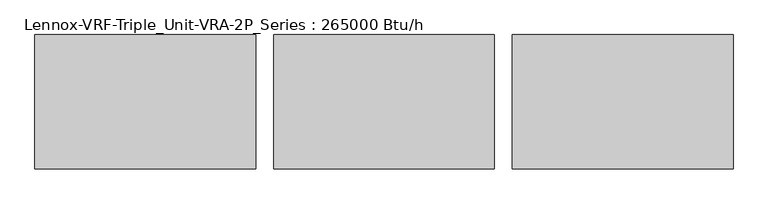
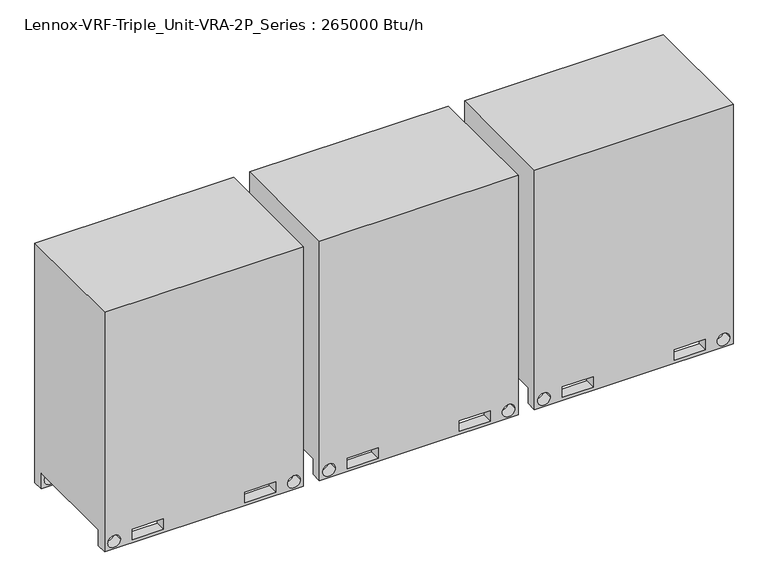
"""IFC4 building model written with IfcOpenShell, lengths in millimetres: proxy geometry, Lennox-VRF-Triple_Unit-VRA-2P_Series : 265000 Btu/h."""

from ifc_helpers import new_model, si_unit, frame, origin, place, context, project, spatial, polyline, circle_curve, source, transform, mapped, element, save
from ifc_brep_helpers import plane_surface, revolved_surface, advanced_brep


def lennox_vrf_triple_unit_vra_2p_series_265000_btu_h_b970921d(model_context):
    return source(origin(), model_context, "Body", "AdvancedBrep", [
        advanced_brep(
        [(628.5, -313.0, 105.0), (-629.5, -313.0, 105.0), (-629.5, 314.0, 105.0), (628.5, 314.0, 105.0), (628.5, -313.0, 0.0), (-629.5, -313.0, 0.0), (-257.5, -313.0, 90.0), (-454.5, -313.0, 90.0), (-454.5, -313.0, 20.0), (-257.5, -313.0, 20.0), (-609.5, -313.0, 50.0), (-529.5, -313.0, 50.0), (528.5, -313.0, 50.0), (608.5, -313.0, 50.0), (453.5, -313.0, 90.0), (256.5, -313.0, 90.0), (256.5, -313.0, 20.0), (453.5, -313.0, 20.0), (-629.5, 314.0, 0.0), (628.5, 314.0, 0.0), (-454.5, 314.0, 90.0), (-257.5, 314.0, 90.0), (-257.5, 314.0, 20.0), (-454.5, 314.0, 20.0), (-529.5, 314.0, 50.0), (-609.5, 314.0, 50.0), (608.5, 314.0, 50.0), (528.5, 314.0, 50.0), (256.5, 314.0, 90.0), (453.5, 314.0, 90.0), (453.5, 314.0, 20.0), (256.5, 314.0, 20.0), (628.5, 383.0, 1603.0), (-629.5, 383.0, 1603.0), (-629.5, -382.0, 1603.0), (628.5, -382.0, 1603.0), (628.5, -382.0, 0.0), (-629.5, -382.0, 0.0), (-629.5, 383.0, 0.0), (628.5, 383.0, 0.0), (-257.5, 383.0, 90.0), (-454.5, 383.0, 90.0), (-454.5, 383.0, 20.0), (-257.5, 383.0, 20.0), (-609.5, 383.0, 50.0), (-529.5, 383.0, 50.0), (528.5, 383.0, 50.0), (608.5, 383.0, 50.0), (453.5, 383.0, 90.0), (256.5, 383.0, 90.0), (256.5, 383.0, 20.0), (453.5, 383.0, 20.0), (-454.5, -382.0, 90.0), (-257.5, -382.0, 90.0), (-257.5, -382.0, 20.0), (-454.5, -382.0, 20.0), (-529.5, -382.0, 50.0), (-609.5, -382.0, 50.0), (608.5, -382.0, 50.0), (528.5, -382.0, 50.0), (256.5, -382.0, 90.0), (453.5, -382.0, 90.0), (453.5, -382.0, 20.0), (256.5, -382.0, 20.0)],
        [
            (0, 1),
            (1, 2),
            (2, 3),
            (3, 0),
            (0, 4),
            (4, 5),
            (5, 1),
            (6, 7),
            (7, 8),
            (8, 9),
            (9, 6),
            (10, 11, circle_curve(frame((-569.5, -313.0, 50.0), z_axis=(0.0, -1.0, 0.0), x_axis=(1.0, 0.0, 0.0)), 40.0)),
            (11, 10, circle_curve(frame((-569.5, -313.0, 50.0), z_axis=(0.0, -1.0, 0.0), x_axis=(1.0, 0.0, 0.0)), 40.0)),
            (12, 13, circle_curve(frame((568.5, -313.0, 50.0), z_axis=(0.0, -1.0, 0.0), x_axis=(1.0, 0.0, 0.0)), 40.0)),
            (13, 12, circle_curve(frame((568.5, -313.0, 50.0), z_axis=(0.0, -1.0, 0.0), x_axis=(1.0, 0.0, 0.0)), 40.0)),
            (14, 15),
            (15, 16),
            (16, 17),
            (17, 14),
            (2, 18),
            (18, 19),
            (19, 3),
            (20, 21),
            (21, 22),
            (22, 23),
            (23, 20),
            (24, 25, circle_curve(frame((-569.5, 314.0, 50.0), z_axis=(0.0, 1.0, 0.0), x_axis=(1.0, 0.0, 0.0)), 40.0)),
            (25, 24, circle_curve(frame((-569.5, 314.0, 50.0), z_axis=(0.0, 1.0, 0.0), x_axis=(1.0, 0.0, 0.0)), 40.0)),
            (26, 27, circle_curve(frame((568.5, 314.0, 50.0), z_axis=(0.0, 1.0, 0.0), x_axis=(1.0, 0.0, 0.0)), 40.0)),
            (27, 26, circle_curve(frame((568.5, 314.0, 50.0), z_axis=(0.0, 1.0, 0.0), x_axis=(1.0, 0.0, 0.0)), 40.0)),
            (28, 29),
            (29, 30),
            (30, 31),
            (31, 28),
            (32, 33),
            (33, 34),
            (34, 35),
            (35, 32),
            (36, 37),
            (37, 5),
            (4, 36),
            (38, 39),
            (39, 19),
            (18, 38),
            (32, 39),
            (38, 33),
            (40, 41),
            (41, 42),
            (42, 43),
            (43, 40),
            (44, 45, circle_curve(frame((-569.5, 383.0, 50.0), z_axis=(0.0, -1.0, 0.0), x_axis=(1.0, 0.0, 0.0)), 40.0)),
            (45, 44, circle_curve(frame((-569.5, 383.0, 50.0), z_axis=(0.0, -1.0, 0.0), x_axis=(1.0, 0.0, 0.0)), 40.0)),
            (46, 47, circle_curve(frame((568.5, 383.0, 50.0), z_axis=(0.0, -1.0, 0.0), x_axis=(1.0, 0.0, 0.0)), 40.0)),
            (47, 46, circle_curve(frame((568.5, 383.0, 50.0), z_axis=(0.0, -1.0, 0.0), x_axis=(1.0, 0.0, 0.0)), 40.0)),
            (48, 49),
            (49, 50),
            (50, 51),
            (51, 48),
            (37, 34),
            (36, 35),
            (52, 53),
            (53, 54),
            (54, 55),
            (55, 52),
            (56, 57, circle_curve(frame((-569.5, -382.0, 50.0), z_axis=(0.0, 1.0, 0.0), x_axis=(1.0, 0.0, 0.0)), 40.0)),
            (57, 56, circle_curve(frame((-569.5, -382.0, 50.0), z_axis=(0.0, 1.0, 0.0), x_axis=(1.0, 0.0, 0.0)), 40.0)),
            (58, 59, circle_curve(frame((568.5, -382.0, 50.0), z_axis=(0.0, 1.0, 0.0), x_axis=(1.0, 0.0, 0.0)), 40.0)),
            (59, 58, circle_curve(frame((568.5, -382.0, 50.0), z_axis=(0.0, 1.0, 0.0), x_axis=(1.0, 0.0, 0.0)), 40.0)),
            (60, 61),
            (61, 62),
            (62, 63),
            (63, 60),
            (6, 53),
            (52, 7),
            (40, 21),
            (20, 41),
            (55, 8),
            (23, 42),
            (54, 9),
            (22, 43),
            (10, 57),
            (56, 11),
            (44, 25),
            (24, 45),
            (12, 59),
            (58, 13),
            (46, 27),
            (26, 47),
            (14, 61),
            (60, 15),
            (48, 29),
            (28, 49),
            (63, 16),
            (31, 50),
            (62, 17),
            (30, 51),
        ],
        [
            plane_surface(frame((628.5, 314.0, 105.0), z_axis=(0.0, 0.0, -1.0), x_axis=(-1.0, 0.0, 0.0))),
            plane_surface(frame((628.5, -313.0, 105.0), z_axis=(0.0, 1.0, 0.0), x_axis=(-1.0, 0.0, 0.0))),
            plane_surface(frame((628.5, 314.0, 0.0), z_axis=(0.0, -1.0, 0.0), x_axis=(-1.0, 0.0, 0.0))),
            plane_surface(frame((-0.5, 0.5, 1603.0), z_axis=(0.0, 0.0, 1.0), x_axis=(0.0, -1.0, 0.0))),
            plane_surface(frame((-0.5, 0.5, 0.0), z_axis=(0.0, 0.0, -1.0), x_axis=(0.0, -1.0, 0.0))),
            plane_surface(frame((628.5, 383.0, 1603.0), z_axis=(0.0, 1.0, 0.0), x_axis=(0.0, 0.0, -1.0))),
            plane_surface(frame((-629.5, 383.0, 1603.0), z_axis=(-1.0, 0.0, 0.0), x_axis=(0.0, 0.0, -1.0))),
            plane_surface(frame((-629.5, -382.0, 1603.0), z_axis=(0.0, -1.0, 0.0), x_axis=(0.0, 0.0, -1.0))),
            plane_surface(frame((628.5, -382.0, 1603.0), z_axis=(1.0, 0.0, 0.0), x_axis=(0.0, 0.0, -1.0))),
            plane_surface(frame((-257.5, -382.0, 90.0), z_axis=(0.0, 0.0, -1.0), x_axis=(0.0, 1.0, 0.0))),
            plane_surface(frame((-454.5, -382.0, 90.0), z_axis=(1.0, 0.0, 0.0), x_axis=(0.0, 1.0, 0.0))),
            plane_surface(frame((-454.5, -382.0, 20.0), z_axis=(0.0, 0.0, 1.0), x_axis=(0.0, 1.0, 0.0))),
            plane_surface(frame((-257.5, -382.0, 20.0), z_axis=(-1.0, 0.0, 0.0), x_axis=(0.0, 1.0, 0.0))),
            revolved_surface(polyline([(-529.5, -382.0, 50.0), (-529.5, -313.0, 50.0)]), (-569.5, 0.5, 50.0), (0.0, -1.0, 0.0)),
            revolved_surface(polyline([(-529.5, 314.0, 50.0), (-529.5, 383.0, 50.0)]), (-569.5, 0.5, 50.0), (0.0, -1.0, 0.0)),
            revolved_surface(polyline([(608.5, -382.0, 50.0), (608.5, -313.0, 50.0)]), (568.5, 0.5, 50.0), (0.0, -1.0, 0.0)),
            revolved_surface(polyline([(608.5, 314.0, 50.0), (608.5, 383.0, 50.0)]), (568.5, 0.5, 50.0), (0.0, -1.0, 0.0)),
            plane_surface(frame((453.5, -382.0, 90.0), z_axis=(0.0, 0.0, -1.0), x_axis=(0.0, 1.0, 0.0))),
            plane_surface(frame((256.5, -382.0, 90.0), z_axis=(1.0, 0.0, 0.0), x_axis=(0.0, 1.0, 0.0))),
            plane_surface(frame((256.5, -382.0, 20.0), z_axis=(0.0, 0.0, 1.0), x_axis=(0.0, 1.0, 0.0))),
            plane_surface(frame((453.5, -382.0, 20.0), z_axis=(-1.0, 0.0, 0.0), x_axis=(0.0, 1.0, 0.0))),
        ],
        [
            (0, [[1, 2, 3, 4]]),
            (1, [[-1, 5, 6, 7], [8, 9, 10, 11], [12, 13], [14, 15], [16, 17, 18, 19]]),
            (2, [[-3, 20, 21, 22], [23, 24, 25, 26], [27, 28], [29, 30], [31, 32, 33, 34]]),
            (3, [[35, 36, 37, 38]]),
            (4, [[39, 40, -6, 41]]),
            (4, [[42, 43, -21, 44]]),
            (5, [[-35, 45, -42, 46], [47, 48, 49, 50], [51, 52], [53, 54], [55, 56, 57, 58]]),
            (6, [[-36, -46, -44, -20, -2, -7, -40, 59]]),
            (7, [[-37, -59, -39, 60], [61, 62, 63, 64], [65, 66], [67, 68], [69, 70, 71, 72]]),
            (8, [[-38, -60, -41, -5, -4, -22, -43, -45]]),
            (9, [[73, -61, 74, -8]]),
            (9, [[75, -23, 76, -47]]),
            (10, [[-74, -64, 77, -9]]),
            (10, [[-76, -26, 78, -48]]),
            (11, [[-77, -63, 79, -10]]),
            (11, [[-78, -25, 80, -49]]),
            (12, [[-73, -11, -79, -62]]),
            (12, [[-75, -50, -80, -24]]),
            (13, [[81, -65, 82, -12]]),
            (14, [[83, -27, 84, -51]]),
            (13, [[-81, -13, -82, -66]]),
            (14, [[-83, -52, -84, -28]]),
            (15, [[85, -67, 86, -14]]),
            (16, [[87, -29, 88, -53]]),
            (15, [[-85, -15, -86, -68]]),
            (16, [[-87, -54, -88, -30]]),
            (17, [[89, -69, 90, -16]]),
            (17, [[91, -31, 92, -55]]),
            (18, [[-90, -72, 93, -17]]),
            (18, [[-92, -34, 94, -56]]),
            (19, [[-93, -71, 95, -18]]),
            (19, [[-94, -33, 96, -57]]),
            (20, [[-89, -19, -95, -70]]),
            (20, [[-91, -58, -96, -32]]),
        ],
    ),
        advanced_brep(
        [(1989.0232, -313.5, 105.0), (731.0232, -313.5, 105.0), (731.0232, 313.5, 105.0), (1989.0232, 313.5, 105.0), (1989.0232, -313.5, 0.0), (731.0232, -313.5, 0.0), (1103.0232, -313.5, 90.0), (906.0232, -313.5, 90.0), (906.0232, -313.5, 20.0), (1103.0232, -313.5, 20.0), (751.0232, -313.5, 50.0), (831.0232, -313.5, 50.0), (1889.0232, -313.5, 50.0), (1969.0232, -313.5, 50.0), (1814.0232, -313.5, 90.0), (1617.0232, -313.5, 90.0), (1617.0232, -313.5, 20.0), (1814.0232, -313.5, 20.0), (731.0232, 313.5, 0.0), (1989.0232, 313.5, 0.0), (906.0232, 313.5, 90.0), (1103.0232, 313.5, 90.0), (1103.0232, 313.5, 20.0), (906.0232, 313.5, 20.0), (831.0232, 313.5, 50.0), (751.0232, 313.5, 50.0), (1969.0232, 313.5, 50.0), (1889.0232, 313.5, 50.0), (1617.0232, 313.5, 90.0), (1814.0232, 313.5, 90.0), (1814.0232, 313.5, 20.0), (1617.0232, 313.5, 20.0), (1989.0232, 382.5, 1603.0), (731.0232, 382.5, 1603.0), (731.0232, -382.5, 1603.0), (1989.0232, -382.5, 1603.0), (1989.0232, -382.5, 0.0), (731.0232, -382.5, 0.0), (731.0232, 382.5, 0.0), (1989.0232, 382.5, 0.0), (1103.0232, 382.5, 90.0), (906.0232, 382.5, 90.0), (906.0232, 382.5, 20.0), (1103.0232, 382.5, 20.0), (751.0232, 382.5, 50.0), (831.0232, 382.5, 50.0), (1889.0232, 382.5, 50.0), (1969.0232, 382.5, 50.0), (1814.0232, 382.5, 90.0), (1617.0232, 382.5, 90.0), (1617.0232, 382.5, 20.0), (1814.0232, 382.5, 20.0), (906.0232, -382.5, 90.0), (1103.0232, -382.5, 90.0), (1103.0232, -382.5, 20.0), (906.0232, -382.5, 20.0), (831.0232, -382.5, 50.0), (751.0232, -382.5, 50.0), (1969.0232, -382.5, 50.0), (1889.0232, -382.5, 50.0), (1617.0232, -382.5, 90.0), (1814.0232, -382.5, 90.0), (1814.0232, -382.5, 20.0), (1617.0232, -382.5, 20.0)],
        [
            (0, 1),
            (1, 2),
            (2, 3),
            (3, 0),
            (0, 4),
            (4, 5),
            (5, 1),
            (6, 7),
            (7, 8),
            (8, 9),
            (9, 6),
            (10, 11, circle_curve(frame((791.0232, -313.5, 50.0), z_axis=(0.0, -1.0, 0.0), x_axis=(1.0, 0.0, 0.0)), 40.0)),
            (11, 10, circle_curve(frame((791.0232, -313.5, 50.0), z_axis=(0.0, -1.0, 0.0), x_axis=(1.0, 0.0, 0.0)), 40.0)),
            (12, 13, circle_curve(frame((1929.0232, -313.5, 50.0), z_axis=(0.0, -1.0, 0.0), x_axis=(1.0, 0.0, 0.0)), 40.0)),
            (13, 12, circle_curve(frame((1929.0232, -313.5, 50.0), z_axis=(0.0, -1.0, 0.0), x_axis=(1.0, 0.0, 0.0)), 40.0)),
            (14, 15),
            (15, 16),
            (16, 17),
            (17, 14),
            (2, 18),
            (18, 19),
            (19, 3),
            (20, 21),
            (21, 22),
            (22, 23),
            (23, 20),
            (24, 25, circle_curve(frame((791.0232, 313.5, 50.0), z_axis=(0.0, 1.0, 0.0), x_axis=(1.0, 0.0, 0.0)), 40.0)),
            (25, 24, circle_curve(frame((791.0232, 313.5, 50.0), z_axis=(0.0, 1.0, 0.0), x_axis=(1.0, 0.0, 0.0)), 40.0)),
            (26, 27, circle_curve(frame((1929.0232, 313.5, 50.0), z_axis=(0.0, 1.0, 0.0), x_axis=(1.0, 0.0, 0.0)), 40.0)),
            (27, 26, circle_curve(frame((1929.0232, 313.5, 50.0), z_axis=(0.0, 1.0, 0.0), x_axis=(1.0, 0.0, 0.0)), 40.0)),
            (28, 29),
            (29, 30),
            (30, 31),
            (31, 28),
            (32, 33),
            (33, 34),
            (34, 35),
            (35, 32),
            (36, 37),
            (37, 5),
            (4, 36),
            (38, 39),
            (39, 19),
            (18, 38),
            (32, 39),
            (38, 33),
            (40, 41),
            (41, 42),
            (42, 43),
            (43, 40),
            (44, 45, circle_curve(frame((791.0232, 382.5, 50.0), z_axis=(0.0, -1.0, 0.0), x_axis=(1.0, 0.0, 0.0)), 40.0)),
            (45, 44, circle_curve(frame((791.0232, 382.5, 50.0), z_axis=(0.0, -1.0, 0.0), x_axis=(1.0, 0.0, 0.0)), 40.0)),
            (46, 47, circle_curve(frame((1929.0232, 382.5, 50.0), z_axis=(0.0, -1.0, 0.0), x_axis=(1.0, 0.0, 0.0)), 40.0)),
            (47, 46, circle_curve(frame((1929.0232, 382.5, 50.0), z_axis=(0.0, -1.0, 0.0), x_axis=(1.0, 0.0, 0.0)), 40.0)),
            (48, 49),
            (49, 50),
            (50, 51),
            (51, 48),
            (37, 34),
            (36, 35),
            (52, 53),
            (53, 54),
            (54, 55),
            (55, 52),
            (56, 57, circle_curve(frame((791.0232, -382.5, 50.0), z_axis=(0.0, 1.0, 0.0), x_axis=(1.0, 0.0, 0.0)), 40.0)),
            (57, 56, circle_curve(frame((791.0232, -382.5, 50.0), z_axis=(0.0, 1.0, 0.0), x_axis=(1.0, 0.0, 0.0)), 40.0)),
            (58, 59, circle_curve(frame((1929.0232, -382.5, 50.0), z_axis=(0.0, 1.0, 0.0), x_axis=(1.0, 0.0, 0.0)), 40.0)),
            (59, 58, circle_curve(frame((1929.0232, -382.5, 50.0), z_axis=(0.0, 1.0, 0.0), x_axis=(1.0, 0.0, 0.0)), 40.0)),
            (60, 61),
            (61, 62),
            (62, 63),
            (63, 60),
            (6, 53),
            (52, 7),
            (40, 21),
            (20, 41),
            (55, 8),
            (23, 42),
            (54, 9),
            (22, 43),
            (10, 57),
            (56, 11),
            (44, 25),
            (24, 45),
            (12, 59),
            (58, 13),
            (46, 27),
            (26, 47),
            (14, 61),
            (60, 15),
            (48, 29),
            (28, 49),
            (63, 16),
            (31, 50),
            (62, 17),
            (30, 51),
        ],
        [
            plane_surface(frame((1989.0232, 313.5, 105.0), z_axis=(0.0, 0.0, -1.0), x_axis=(-1.0, 0.0, 0.0))),
            plane_surface(frame((1989.0232, -313.5, 105.0), z_axis=(0.0, 1.0, 0.0), x_axis=(-1.0, 0.0, 0.0))),
            plane_surface(frame((1989.0232, 313.5, 0.0), z_axis=(0.0, -1.0, 0.0), x_axis=(-1.0, 0.0, 0.0))),
            plane_surface(frame((1360.0232, 0.0, 1603.0), z_axis=(0.0, 0.0, 1.0), x_axis=(0.0, -1.0, 0.0))),
            plane_surface(frame((1360.0232, 0.0, 0.0), z_axis=(0.0, 0.0, -1.0), x_axis=(0.0, -1.0, 0.0))),
            plane_surface(frame((1989.0232, 382.5, 1603.0), z_axis=(0.0, 1.0, 0.0), x_axis=(0.0, 0.0, -1.0))),
            plane_surface(frame((731.0232, 382.5, 1603.0), z_axis=(-1.0, 0.0, 0.0), x_axis=(0.0, 0.0, -1.0))),
            plane_surface(frame((731.0232, -382.5, 1603.0), z_axis=(0.0, -1.0, 0.0), x_axis=(0.0, 0.0, -1.0))),
            plane_surface(frame((1989.0232, -382.5, 1603.0), z_axis=(1.0, 0.0, 0.0), x_axis=(0.0, 0.0, -1.0))),
            plane_surface(frame((1103.0232, -382.5, 90.0), z_axis=(0.0, 0.0, -1.0), x_axis=(0.0, 1.0, 0.0))),
            plane_surface(frame((906.0232, -382.5, 90.0), z_axis=(1.0, 0.0, 0.0), x_axis=(0.0, 1.0, 0.0))),
            plane_surface(frame((906.0232, -382.5, 20.0), z_axis=(0.0, 0.0, 1.0), x_axis=(0.0, 1.0, 0.0))),
            plane_surface(frame((1103.0232, -382.5, 20.0), z_axis=(-1.0, 0.0, 0.0), x_axis=(0.0, 1.0, 0.0))),
            revolved_surface(polyline([(831.0232, -382.5, 50.0), (831.0232, -313.5, 50.0)]), (791.0232, 0.0, 50.0), (0.0, -1.0, 0.0)),
            revolved_surface(polyline([(831.0232, 313.5, 50.0), (831.0232, 382.5, 50.0)]), (791.0232, 0.0, 50.0), (0.0, -1.0, 0.0)),
            revolved_surface(polyline([(1969.0232, -382.5, 50.0), (1969.0232, -313.5, 50.0)]), (1929.0232, 0.0, 50.0), (0.0, -1.0, 0.0)),
            revolved_surface(polyline([(1969.0232, 313.5, 50.0), (1969.0232, 382.5, 50.0)]), (1929.0232, 0.0, 50.0), (0.0, -1.0, 0.0)),
            plane_surface(frame((1814.0232, -382.5, 90.0), z_axis=(0.0, 0.0, -1.0), x_axis=(0.0, 1.0, 0.0))),
            plane_surface(frame((1617.0232, -382.5, 90.0), z_axis=(1.0, 0.0, 0.0), x_axis=(0.0, 1.0, 0.0))),
            plane_surface(frame((1617.0232, -382.5, 20.0), z_axis=(0.0, 0.0, 1.0), x_axis=(0.0, 1.0, 0.0))),
            plane_surface(frame((1814.0232, -382.5, 20.0), z_axis=(-1.0, 0.0, 0.0), x_axis=(0.0, 1.0, 0.0))),
        ],
        [
            (0, [[1, 2, 3, 4]]),
            (1, [[-1, 5, 6, 7], [8, 9, 10, 11], [12, 13], [14, 15], [16, 17, 18, 19]]),
            (2, [[-3, 20, 21, 22], [23, 24, 25, 26], [27, 28], [29, 30], [31, 32, 33, 34]]),
            (3, [[35, 36, 37, 38]]),
            (4, [[39, 40, -6, 41]]),
            (4, [[42, 43, -21, 44]]),
            (5, [[-35, 45, -42, 46], [47, 48, 49, 50], [51, 52], [53, 54], [55, 56, 57, 58]]),
            (6, [[-36, -46, -44, -20, -2, -7, -40, 59]]),
            (7, [[-37, -59, -39, 60], [61, 62, 63, 64], [65, 66], [67, 68], [69, 70, 71, 72]]),
            (8, [[-38, -60, -41, -5, -4, -22, -43, -45]]),
            (9, [[73, -61, 74, -8]]),
            (9, [[75, -23, 76, -47]]),
            (10, [[-74, -64, 77, -9]]),
            (10, [[-76, -26, 78, -48]]),
            (11, [[-77, -63, 79, -10]]),
            (11, [[-78, -25, 80, -49]]),
            (12, [[-73, -11, -79, -62]]),
            (12, [[-75, -50, -80, -24]]),
            (13, [[81, -65, 82, -12]]),
            (14, [[83, -27, 84, -51]]),
            (13, [[-81, -13, -82, -66]]),
            (14, [[-83, -52, -84, -28]]),
            (15, [[85, -67, 86, -14]]),
            (16, [[87, -29, 88, -53]]),
            (15, [[-85, -15, -86, -68]]),
            (16, [[-87, -54, -88, -30]]),
            (17, [[89, -69, 90, -16]]),
            (17, [[91, -31, 92, -55]]),
            (18, [[-90, -72, 93, -17]]),
            (18, [[-92, -34, 94, -56]]),
            (19, [[-93, -71, 95, -18]]),
            (19, [[-94, -33, 96, -57]]),
            (20, [[-89, -19, -95, -70]]),
            (20, [[-91, -58, -96, -32]]),
        ],
    ),
        advanced_brep(
        [(-731.0232, -313.5, 105.0), (-1989.0232, -313.5, 105.0), (-1989.0232, 313.5, 105.0), (-731.0232, 313.5, 105.0), (-731.0232, -313.5, 0.0), (-1989.0232, -313.5, 0.0), (-1617.0232, -313.5, 90.0), (-1814.0232, -313.5, 90.0), (-1814.0232, -313.5, 20.0), (-1617.0232, -313.5, 20.0), (-1969.0232, -313.5, 50.0), (-1889.0232, -313.5, 50.0), (-831.0232, -313.5, 50.0), (-751.0232, -313.5, 50.0), (-906.0232, -313.5, 90.0), (-1103.0232, -313.5, 90.0), (-1103.0232, -313.5, 20.0), (-906.0232, -313.5, 20.0), (-1989.0232, 313.5, 0.0), (-731.0232, 313.5, 0.0), (-1814.0232, 313.5, 90.0), (-1617.0232, 313.5, 90.0), (-1617.0232, 313.5, 20.0), (-1814.0232, 313.5, 20.0), (-1889.0232, 313.5, 50.0), (-1969.0232, 313.5, 50.0), (-751.0232, 313.5, 50.0), (-831.0232, 313.5, 50.0), (-1103.0232, 313.5, 90.0), (-906.0232, 313.5, 90.0), (-906.0232, 313.5, 20.0), (-1103.0232, 313.5, 20.0), (-731.0232, 382.5, 1603.0), (-1989.0232, 382.5, 1603.0), (-1989.0232, -382.5, 1603.0), (-731.0232, -382.5, 1603.0), (-731.0232, -382.5, 0.0), (-1989.0232, -382.5, 0.0), (-1989.0232, 382.5, 0.0), (-731.0232, 382.5, 0.0), (-1617.0232, 382.5, 90.0), (-1814.0232, 382.5, 90.0), (-1814.0232, 382.5, 20.0), (-1617.0232, 382.5, 20.0), (-1969.0232, 382.5, 50.0), (-1889.0232, 382.5, 50.0), (-831.0232, 382.5, 50.0), (-751.0232, 382.5, 50.0), (-906.0232, 382.5, 90.0), (-1103.0232, 382.5, 90.0), (-1103.0232, 382.5, 20.0), (-906.0232, 382.5, 20.0), (-1814.0232, -382.5, 90.0), (-1617.0232, -382.5, 90.0), (-1617.0232, -382.5, 20.0), (-1814.0232, -382.5, 20.0), (-1889.0232, -382.5, 50.0), (-1969.0232, -382.5, 50.0), (-751.0232, -382.5, 50.0), (-831.0232, -382.5, 50.0), (-1103.0232, -382.5, 90.0), (-906.0232, -382.5, 90.0), (-906.0232, -382.5, 20.0), (-1103.0232, -382.5, 20.0)],
        [
            (0, 1),
            (1, 2),
            (2, 3),
            (3, 0),
            (0, 4),
            (4, 5),
            (5, 1),
            (6, 7),
            (7, 8),
            (8, 9),
            (9, 6),
            (10, 11, circle_curve(frame((-1929.0232, -313.5, 50.0), z_axis=(0.0, -1.0, 0.0), x_axis=(1.0, 0.0, 0.0)), 40.0)),
            (11, 10, circle_curve(frame((-1929.0232, -313.5, 50.0), z_axis=(0.0, -1.0, 0.0), x_axis=(1.0, 0.0, 0.0)), 40.0)),
            (12, 13, circle_curve(frame((-791.0232, -313.5, 50.0), z_axis=(0.0, -1.0, 0.0), x_axis=(1.0, 0.0, 0.0)), 40.0)),
            (13, 12, circle_curve(frame((-791.0232, -313.5, 50.0), z_axis=(0.0, -1.0, 0.0), x_axis=(1.0, 0.0, 0.0)), 40.0)),
            (14, 15),
            (15, 16),
            (16, 17),
            (17, 14),
            (2, 18),
            (18, 19),
            (19, 3),
            (20, 21),
            (21, 22),
            (22, 23),
            (23, 20),
            (24, 25, circle_curve(frame((-1929.0232, 313.5, 50.0), z_axis=(0.0, 1.0, 0.0), x_axis=(1.0, 0.0, 0.0)), 40.0)),
            (25, 24, circle_curve(frame((-1929.0232, 313.5, 50.0), z_axis=(0.0, 1.0, 0.0), x_axis=(1.0, 0.0, 0.0)), 40.0)),
            (26, 27, circle_curve(frame((-791.0232, 313.5, 50.0), z_axis=(0.0, 1.0, 0.0), x_axis=(1.0, 0.0, 0.0)), 40.0)),
            (27, 26, circle_curve(frame((-791.0232, 313.5, 50.0), z_axis=(0.0, 1.0, 0.0), x_axis=(1.0, 0.0, 0.0)), 40.0)),
            (28, 29),
            (29, 30),
            (30, 31),
            (31, 28),
            (32, 33),
            (33, 34),
            (34, 35),
            (35, 32),
            (36, 37),
            (37, 5),
            (4, 36),
            (38, 39),
            (39, 19),
            (18, 38),
            (32, 39),
            (38, 33),
            (40, 41),
            (41, 42),
            (42, 43),
            (43, 40),
            (44, 45, circle_curve(frame((-1929.0232, 382.5, 50.0), z_axis=(0.0, -1.0, 0.0), x_axis=(1.0, 0.0, 0.0)), 40.0)),
            (45, 44, circle_curve(frame((-1929.0232, 382.5, 50.0), z_axis=(0.0, -1.0, 0.0), x_axis=(1.0, 0.0, 0.0)), 40.0)),
            (46, 47, circle_curve(frame((-791.0232, 382.5, 50.0), z_axis=(0.0, -1.0, 0.0), x_axis=(1.0, 0.0, 0.0)), 40.0)),
            (47, 46, circle_curve(frame((-791.0232, 382.5, 50.0), z_axis=(0.0, -1.0, 0.0), x_axis=(1.0, 0.0, 0.0)), 40.0)),
            (48, 49),
            (49, 50),
            (50, 51),
            (51, 48),
            (37, 34),
            (36, 35),
            (52, 53),
            (53, 54),
            (54, 55),
            (55, 52),
            (56, 57, circle_curve(frame((-1929.0232, -382.5, 50.0), z_axis=(0.0, 1.0, 0.0), x_axis=(1.0, 0.0, 0.0)), 40.0)),
            (57, 56, circle_curve(frame((-1929.0232, -382.5, 50.0), z_axis=(0.0, 1.0, 0.0), x_axis=(1.0, 0.0, 0.0)), 40.0)),
            (58, 59, circle_curve(frame((-791.0232, -382.5, 50.0), z_axis=(0.0, 1.0, 0.0), x_axis=(1.0, 0.0, 0.0)), 40.0)),
            (59, 58, circle_curve(frame((-791.0232, -382.5, 50.0), z_axis=(0.0, 1.0, 0.0), x_axis=(1.0, 0.0, 0.0)), 40.0)),
            (60, 61),
            (61, 62),
            (62, 63),
            (63, 60),
            (6, 53),
            (52, 7),
            (40, 21),
            (20, 41),
            (55, 8),
            (23, 42),
            (54, 9),
            (22, 43),
            (10, 57),
            (56, 11),
            (44, 25),
            (24, 45),
            (12, 59),
            (58, 13),
            (46, 27),
            (26, 47),
            (14, 61),
            (60, 15),
            (48, 29),
            (28, 49),
            (63, 16),
            (31, 50),
            (62, 17),
            (30, 51),
        ],
        [
            plane_surface(frame((-731.0232, 313.5, 105.0), z_axis=(0.0, 0.0, -1.0), x_axis=(-1.0, 0.0, 0.0))),
            plane_surface(frame((-731.0232, -313.5, 105.0), z_axis=(0.0, 1.0, 0.0), x_axis=(-1.0, 0.0, 0.0))),
            plane_surface(frame((-731.0232, 313.5, 0.0), z_axis=(0.0, -1.0, 0.0), x_axis=(-1.0, 0.0, 0.0))),
            plane_surface(frame((-1360.0232, 0.0, 1603.0), z_axis=(0.0, 0.0, 1.0), x_axis=(0.0, -1.0, 0.0))),
            plane_surface(frame((-1360.0232, 0.0, 0.0), z_axis=(0.0, 0.0, -1.0), x_axis=(0.0, -1.0, 0.0))),
            plane_surface(frame((-731.0232, 382.5, 1603.0), z_axis=(0.0, 1.0, 0.0), x_axis=(0.0, 0.0, -1.0))),
            plane_surface(frame((-1989.0232, 382.5, 1603.0), z_axis=(-1.0, 0.0, 0.0), x_axis=(0.0, 0.0, -1.0))),
            plane_surface(frame((-1989.0232, -382.5, 1603.0), z_axis=(0.0, -1.0, 0.0), x_axis=(0.0, 0.0, -1.0))),
            plane_surface(frame((-731.0232, -382.5, 1603.0), z_axis=(1.0, 0.0, 0.0), x_axis=(0.0, 0.0, -1.0))),
            plane_surface(frame((-1617.0232, -382.5, 90.0), z_axis=(0.0, 0.0, -1.0), x_axis=(0.0, 1.0, 0.0))),
            plane_surface(frame((-1814.0232, -382.5, 90.0), z_axis=(1.0, 0.0, 0.0), x_axis=(0.0, 1.0, 0.0))),
            plane_surface(frame((-1814.0232, -382.5, 20.0), z_axis=(0.0, 0.0, 1.0), x_axis=(0.0, 1.0, 0.0))),
            plane_surface(frame((-1617.0232, -382.5, 20.0), z_axis=(-1.0, 0.0, 0.0), x_axis=(0.0, 1.0, 0.0))),
            revolved_surface(polyline([(-1889.0232, -382.5, 50.0), (-1889.0232, -313.5, 50.0)]), (-1929.0232, 0.0, 50.0), (0.0, -1.0, 0.0)),
            revolved_surface(polyline([(-1889.0232, 313.5, 50.0), (-1889.0232, 382.5, 50.0)]), (-1929.0232, 0.0, 50.0), (0.0, -1.0, 0.0)),
            revolved_surface(polyline([(-751.0232, -382.5, 50.0), (-751.0232, -313.5, 50.0)]), (-791.0232, 0.0, 50.0), (0.0, -1.0, 0.0)),
            revolved_surface(polyline([(-751.0232, 313.5, 50.0), (-751.0232, 382.5, 50.0)]), (-791.0232, 0.0, 50.0), (0.0, -1.0, 0.0)),
            plane_surface(frame((-906.0232, -382.5, 90.0), z_axis=(0.0, 0.0, -1.0), x_axis=(0.0, 1.0, 0.0))),
            plane_surface(frame((-1103.0232, -382.5, 90.0), z_axis=(1.0, 0.0, 0.0), x_axis=(0.0, 1.0, 0.0))),
            plane_surface(frame((-1103.0232, -382.5, 20.0), z_axis=(0.0, 0.0, 1.0), x_axis=(0.0, 1.0, 0.0))),
            plane_surface(frame((-906.0232, -382.5, 20.0), z_axis=(-1.0, 0.0, 0.0), x_axis=(0.0, 1.0, 0.0))),
        ],
        [
            (0, [[1, 2, 3, 4]]),
            (1, [[-1, 5, 6, 7], [8, 9, 10, 11], [12, 13], [14, 15], [16, 17, 18, 19]]),
            (2, [[-3, 20, 21, 22], [23, 24, 25, 26], [27, 28], [29, 30], [31, 32, 33, 34]]),
            (3, [[35, 36, 37, 38]]),
            (4, [[39, 40, -6, 41]]),
            (4, [[42, 43, -21, 44]]),
            (5, [[-35, 45, -42, 46], [47, 48, 49, 50], [51, 52], [53, 54], [55, 56, 57, 58]]),
            (6, [[-36, -46, -44, -20, -2, -7, -40, 59]]),
            (7, [[-37, -59, -39, 60], [61, 62, 63, 64], [65, 66], [67, 68], [69, 70, 71, 72]]),
            (8, [[-38, -60, -41, -5, -4, -22, -43, -45]]),
            (9, [[73, -61, 74, -8]]),
            (9, [[75, -23, 76, -47]]),
            (10, [[-74, -64, 77, -9]]),
            (10, [[-76, -26, 78, -48]]),
            (11, [[-77, -63, 79, -10]]),
            (11, [[-78, -25, 80, -49]]),
            (12, [[-73, -11, -79, -62]]),
            (12, [[-75, -50, -80, -24]]),
            (13, [[81, -65, 82, -12]]),
            (14, [[83, -27, 84, -51]]),
            (13, [[-81, -13, -82, -66]]),
            (14, [[-83, -52, -84, -28]]),
            (15, [[85, -67, 86, -14]]),
            (16, [[87, -29, 88, -53]]),
            (15, [[-85, -15, -86, -68]]),
            (16, [[-87, -54, -88, -30]]),
            (17, [[89, -69, 90, -16]]),
            (17, [[91, -31, 92, -55]]),
            (18, [[-90, -72, 93, -17]]),
            (18, [[-92, -34, 94, -56]]),
            (19, [[-93, -71, 95, -18]]),
            (19, [[-94, -33, 96, -57]]),
            (20, [[-89, -19, -95, -70]]),
            (20, [[-91, -58, -96, -32]]),
        ],
    ),
    ])


if __name__ == "__main__":
    model = new_model("IFC4")
    model_context = context("Model", 3, world=origin())
    ifc_project = project(units=[si_unit("LENGTHUNIT", "METRE", prefix="MILLI")], contexts=[model_context])
    site = spatial("IfcSite", under=ifc_project)
    building = spatial("IfcBuilding", under=site)
    placement = place(None, origin())
    lennox_vrf_triple_unit_vra_2p_series_265000_btu_h_shape = lennox_vrf_triple_unit_vra_2p_series_265000_btu_h_b970921d(model_context)
    element("IfcBuildingElementProxy", 1, Name="Lennox-VRF-Triple_Unit-VRA-2P_Series : 265000 Btu/h", ObjectType="Lennox-VRF-Triple_Unit-VRA-2P_Series : 265000 Btu/h", at=placement, inside=building, context=model_context, shape_type="MappedRepresentation", body=[
        mapped(lennox_vrf_triple_unit_vra_2p_series_265000_btu_h_shape, transform((0.0, 0.0, 0.0), x_axis=(1.0, 0.0, 0.0), y_axis=(0.0, 1.0, 0.0), z_axis=(0.0, 0.0, 1.0))),
    ])
    save(model, "model.ifc")
